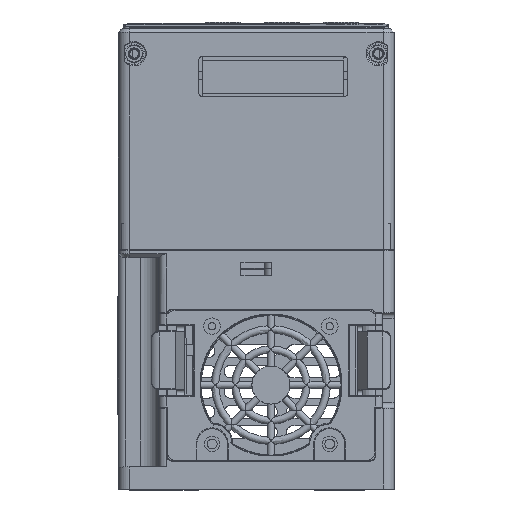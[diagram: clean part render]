
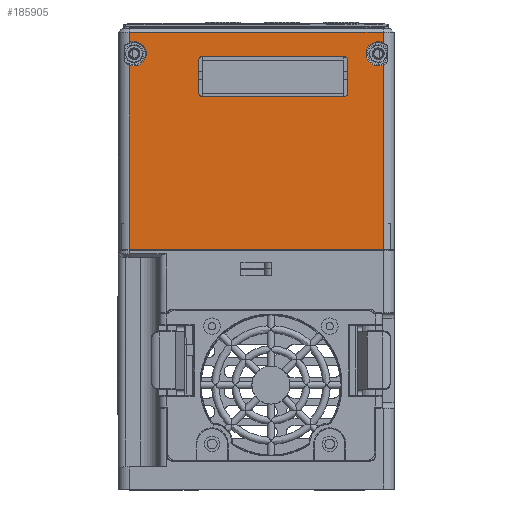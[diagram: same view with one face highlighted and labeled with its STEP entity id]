
A CAD part, top view. The second image highlights one B-rep face of the part: STEP entity #185905.
In plain terms, the highlighted planar face has unit normal (0, 0, 1).
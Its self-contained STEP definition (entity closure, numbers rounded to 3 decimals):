
#156647=DIRECTION('',(1.,0.,0.));
#156648=VECTOR('',#156647,69.);
#156649=CARTESIAN_POINT('',(-34.5,33.2,148.));
#156650=LINE('',#156649,#156648);
#156858=DIRECTION('',(0.,1.,0.));
#156859=VECTOR('',#156858,48.805);
#156860=CARTESIAN_POINT('',(34.5,33.2,148.));
#156861=LINE('',#156860,#156859);
#156865=DIRECTION('',(0.,1.,0.001));
#156866=VECTOR('',#156865,0.13);
#156867=CARTESIAN_POINT('',(34.5,83.283,148.));
#156868=LINE('',#156867,#156866);
#165876=DIRECTION('',(0.,-1.,0.));
#165877=VECTOR('',#165876,2.742);
#165878=CARTESIAN_POINT('',(-34.5,92.23,
148.));
#165879=LINE('',#165878,#165877);
#165918=DIRECTION('',(0.,-1.,0.));
#165919=VECTOR('',#165918,2.749);
#165920=CARTESIAN_POINT('',(34.5,92.23,
148.));
#165921=LINE('',#165920,#165919);
#165925=CARTESIAN_POINT('',(33.202,86.447,148.));
#165926=DIRECTION('',(0.,0.,1.));
#165927=DIRECTION('',(0.393,0.919,0.));
#165928=AXIS2_PLACEMENT_3D('',#165925,#165926,#165927);
#165933=CARTESIAN_POINT('',(33.202,86.447,148.));
#165934=DIRECTION('',(0.,0.,1.));
#165935=DIRECTION('',(0.,1.,0.));
#165936=AXIS2_PLACEMENT_3D('',#165933,#165934,#165935);
#165941=CARTESIAN_POINT('',(33.202,86.447,148.));
#165942=DIRECTION('',(0.,0.,1.));
#165943=DIRECTION('',(0.,-1.,0.));
#165944=AXIS2_PLACEMENT_3D('',#165941,#165942,#165943);
#165949=CARTESIAN_POINT('',(34.5,83.283,148.));
#165950=CARTESIAN_POINT('',(34.54,83.219,148.));
#165951=CARTESIAN_POINT('',(34.607,83.087,
148.));
#165952=CARTESIAN_POINT('',(34.669,82.874,
148.001));
#165953=CARTESIAN_POINT('',(34.684,82.722,
147.997));
#165954=CARTESIAN_POINT('',(34.684,82.644,
147.997));
#165959=CARTESIAN_POINT('',(34.684,82.644,
147.997));
#165960=CARTESIAN_POINT('',(34.684,82.566,
147.997));
#165961=CARTESIAN_POINT('',(34.669,82.415,
148.001));
#165962=CARTESIAN_POINT('',(34.607,82.202,
148.));
#165963=CARTESIAN_POINT('',(34.54,82.069,148.));
#165964=CARTESIAN_POINT('',(34.5,82.005,148.));
#165969=DIRECTION('',(0.,1.,0.));
#165970=VECTOR('',#165969,50.206);
#165971=CARTESIAN_POINT('',(-34.5,33.2,148.));
#165972=LINE('',#165971,#165970);
#165976=CARTESIAN_POINT('',(-33.219,86.447,148.));
#165977=DIRECTION('',(0.,0.,1.));
#165978=DIRECTION('',(-0.388,-0.922,0.));
#165979=AXIS2_PLACEMENT_3D('',#165976,#165977,#165978);
#165984=CARTESIAN_POINT('',(-33.219,86.447,148.));
#165985=DIRECTION('',(0.,0.,1.));
#165986=DIRECTION('',(0.,-1.,0.));
#165987=AXIS2_PLACEMENT_3D('',#165984,#165985,#165986);
#165992=CARTESIAN_POINT('',(-33.219,86.447,148.));
#165993=DIRECTION('',(0.,0.,1.));
#165994=DIRECTION('',(0.,1.,0.));
#165995=AXIS2_PLACEMENT_3D('',#165992,#165993,#165994);
#166000=CARTESIAN_POINT('',(23.852,84.7,148.));
#166001=DIRECTION('',(0.,0.,1.));
#166002=DIRECTION('',(1.,0.,0.));
#166003=AXIS2_PLACEMENT_3D('',#166000,#166001,#166002);
#166008=CARTESIAN_POINT('',(-14.604,84.7,148.));
#166009=DIRECTION('',(0.,0.,1.));
#166010=DIRECTION('',(0.,1.,0.));
#166011=AXIS2_PLACEMENT_3D('',#166008,#166009,#166010);
#166016=CARTESIAN_POINT('',(-14.604,75.7,148.));
#166017=DIRECTION('',(0.,0.,1.));
#166018=DIRECTION('',(-1.,0.,0.));
#166019=AXIS2_PLACEMENT_3D('',#166016,#166017,#166018);
#166024=CARTESIAN_POINT('',(23.852,75.7,148.));
#166025=DIRECTION('',(0.,0.,1.));
#166026=DIRECTION('',(0.,-1.,0.));
#166027=AXIS2_PLACEMENT_3D('',#166024,#166025,#166026);
#166039=DIRECTION('',(-1.,0.,0.));
#166040=VECTOR('',#166039,69.);
#166041=CARTESIAN_POINT('',(34.5,92.23,
148.));
#166042=LINE('',#166041,#166040);
#170288=DIRECTION('',(0.,-1.,0.));
#170289=VECTOR('',#170288,9.);
#170290=CARTESIAN_POINT('',(24.852,84.7,148.));
#170291=LINE('',#170290,#170289);
#170316=DIRECTION('',(-1.,0.,0.));
#170317=VECTOR('',#170316,38.456);
#170318=CARTESIAN_POINT('',(23.852,74.7,148.));
#170319=LINE('',#170318,#170317);
#170442=DIRECTION('',(1.,0.,0.));
#170443=VECTOR('',#170442,38.456);
#170444=CARTESIAN_POINT('',(-14.604,85.7,148.));
#170445=LINE('',#170444,#170443);
#170477=DIRECTION('',(0.,1.,0.));
#170478=VECTOR('',#170477,9.);
#170479=CARTESIAN_POINT('',(-15.604,75.7,148.));
#170480=LINE('',#170479,#170478);
#176404=CARTESIAN_POINT('',(-34.5,33.2,148.));
#176405=VERTEX_POINT('',#176404);
#176406=CARTESIAN_POINT('',(34.5,33.2,148.));
#176407=VERTEX_POINT('',#176406);
#176942=CARTESIAN_POINT('',(-14.604,85.7,148.));
#176944=VERTEX_POINT('',#176942);
#176946=CARTESIAN_POINT('',(-15.604,84.7,148.));
#176947=VERTEX_POINT('',#176946);
#176950=CARTESIAN_POINT('',(23.852,85.7,148.));
#176951=VERTEX_POINT('',#176950);
#176972=CARTESIAN_POINT('',(24.852,84.7,148.));
#176973=VERTEX_POINT('',#176972);
#176974=CARTESIAN_POINT('',(24.852,75.7,148.));
#176975=VERTEX_POINT('',#176974);
#176976=CARTESIAN_POINT('',(23.852,74.7,148.));
#176977=VERTEX_POINT('',#176976);
#176978=CARTESIAN_POINT('',(-14.604,74.7,148.));
#176979=VERTEX_POINT('',#176978);
#176980=CARTESIAN_POINT('',(-34.5,92.23,
148.));
#176981=CARTESIAN_POINT('',(-34.5,89.488,
148.));
#176982=VERTEX_POINT('',#176980);
#176983=VERTEX_POINT('',#176981);
#176984=CARTESIAN_POINT('',(34.5,92.23,
148.));
#176985=VERTEX_POINT('',#176984);
#176986=CARTESIAN_POINT('',(34.5,89.481,
148.));
#176987=VERTEX_POINT('',#176986);
#176988=CARTESIAN_POINT('',(33.202,83.147,148.));
#176989=CARTESIAN_POINT('',(34.5,83.413,148.));
#176990=VERTEX_POINT('',#176988);
#176991=VERTEX_POINT('',#176989);
#176992=CARTESIAN_POINT('',(33.202,89.747,148.));
#176993=VERTEX_POINT('',#176992);
#176994=CARTESIAN_POINT('',(34.5,83.283,148.));
#176995=VERTEX_POINT('',#176994);
#176996=VERTEX_POINT('',#165954);
#176997=VERTEX_POINT('',#165964);
#176998=CARTESIAN_POINT('',(-34.5,83.406,
148.));
#176999=VERTEX_POINT('',#176998);
#177000=CARTESIAN_POINT('',(-33.219,89.747,148.));
#177001=VERTEX_POINT('',#177000);
#177002=CARTESIAN_POINT('',(-33.219,83.147,148.));
#177003=VERTEX_POINT('',#177002);
#177004=CARTESIAN_POINT('',(-15.604,75.7,148.));
#177005=VERTEX_POINT('',#177004);
#185861=CARTESIAN_POINT('',(-34.5,33.2,148.));
#185862=DIRECTION('',(0.,0.,1.));
#185863=DIRECTION('',(1.,0.,0.));
#185864=AXIS2_PLACEMENT_3D('',#185861,#185862,#185863);
#185865=PLANE('',#185864);
#185866=ORIENTED_EDGE('',*,*,#185792,.F.);
#185868=ORIENTED_EDGE('',*,*,#185867,.F.);
#185869=ORIENTED_EDGE('',*,*,#179305,.T.);
#185871=ORIENTED_EDGE('',*,*,#185870,.T.);
#185873=ORIENTED_EDGE('',*,*,#185872,.T.);
#185875=ORIENTED_EDGE('',*,*,#185874,.T.);
#185876=ORIENTED_EDGE('',*,*,#179317,.F.);
#185877=ORIENTED_EDGE('',*,*,#179315,.T.);
#185878=ORIENTED_EDGE('',*,*,#179313,.T.);
#185879=ORIENTED_EDGE('',*,*,#179311,.F.);
#185880=ORIENTED_EDGE('',*,*,#179135,.F.);
#185881=ORIENTED_EDGE('',*,*,#185786,.T.);
#185882=ORIENTED_EDGE('',*,*,#185849,.T.);
#185883=ORIENTED_EDGE('',*,*,#185847,.T.);
#185884=ORIENTED_EDGE('',*,*,#185845,.T.);
#185885=EDGE_LOOP('',(#185866,#185868,#185869,#185871,#185873,#185875,#185876,
#185877,#185878,#185879,#185880,#185881,#185882,#185883,#185884));
#185886=FACE_OUTER_BOUND('',#185885,.F.);
#185888=ORIENTED_EDGE('',*,*,#185887,.F.);
#185890=ORIENTED_EDGE('',*,*,#185889,.T.);
#185892=ORIENTED_EDGE('',*,*,#185891,.F.);
#185894=ORIENTED_EDGE('',*,*,#185893,.T.);
#185896=ORIENTED_EDGE('',*,*,#185895,.F.);
#185898=ORIENTED_EDGE('',*,*,#185897,.T.);
#185900=ORIENTED_EDGE('',*,*,#185899,.F.);
#185902=ORIENTED_EDGE('',*,*,#185901,.T.);
#185903=EDGE_LOOP('',(#185888,#185890,#185892,#185894,#185896,#185898,#185900,
#185902));
#185904=FACE_BOUND('',#185903,.F.);
#185905=ADVANCED_FACE('',(#185886,#185904),#185865,.T.);
#165929=CIRCLE('',#165928,3.3);
#165937=CIRCLE('',#165936,3.3);
#165945=CIRCLE('',#165944,3.3);
#165955=B_SPLINE_CURVE_WITH_KNOTS('',3,(#165949,#165950,#165951,#165952,#165953,
#165954),.UNSPECIFIED.,.F.,.F.,(4,1,1,4),(0.,0.333,
0.667,1.),.UNSPECIFIED.);
#165965=B_SPLINE_CURVE_WITH_KNOTS('',3,(#165959,#165960,#165961,#165962,#165963,
#165964),.UNSPECIFIED.,.F.,.F.,(4,1,1,4),(0.,0.333,
0.667,1.),.UNSPECIFIED.);
#165980=CIRCLE('',#165979,3.3);
#165988=CIRCLE('',#165987,3.3);
#165996=CIRCLE('',#165995,3.3);
#166004=CIRCLE('',#166003,1.);
#166012=CIRCLE('',#166011,1.);
#166020=CIRCLE('',#166019,1.);
#166028=CIRCLE('',#166027,1.);
#179135=EDGE_CURVE('',#176405,#176407,#156650,.T.);
#179305=EDGE_CURVE('',#176985,#176987,#165921,.T.);
#179311=EDGE_CURVE('',#176407,#176997,#156861,.T.);
#179313=EDGE_CURVE('',#176996,#176997,#165965,.T.);
#179315=EDGE_CURVE('',#176995,#176996,#165955,.T.);
#179317=EDGE_CURVE('',#176995,#176991,#156868,.T.);
#185786=EDGE_CURVE('',#176405,#176999,#165972,.T.);
#185792=EDGE_CURVE('',#176982,#176983,#165879,.T.);
#185845=EDGE_CURVE('',#177001,#176983,#165996,.T.);
#185847=EDGE_CURVE('',#177003,#177001,#165988,.T.);
#185849=EDGE_CURVE('',#176999,#177003,#165980,.T.);
#185867=EDGE_CURVE('',#176985,#176982,#166042,.T.);
#185870=EDGE_CURVE('',#176987,#176993,#165929,.T.);
#185872=EDGE_CURVE('',#176993,#176990,#165937,.T.);
#185874=EDGE_CURVE('',#176990,#176991,#165945,.T.);
#185887=EDGE_CURVE('',#176973,#176975,#170291,.T.);
#185889=EDGE_CURVE('',#176973,#176951,#166004,.T.);
#185891=EDGE_CURVE('',#176944,#176951,#170445,.T.);
#185893=EDGE_CURVE('',#176944,#176947,#166012,.T.);
#185895=EDGE_CURVE('',#177005,#176947,#170480,.T.);
#185897=EDGE_CURVE('',#177005,#176979,#166020,.T.);
#185899=EDGE_CURVE('',#176977,#176979,#170319,.T.);
#185901=EDGE_CURVE('',#176977,#176975,#166028,.T.);
